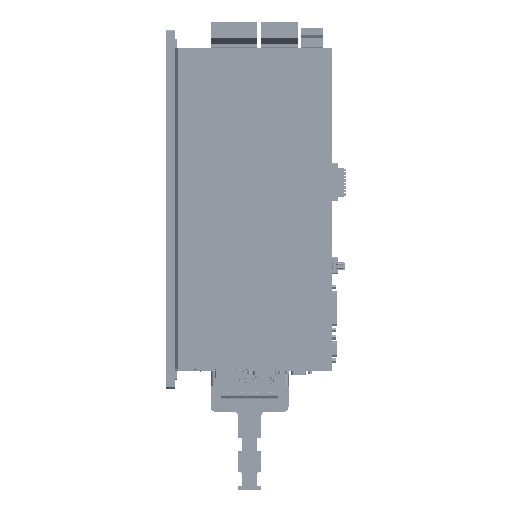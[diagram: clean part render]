
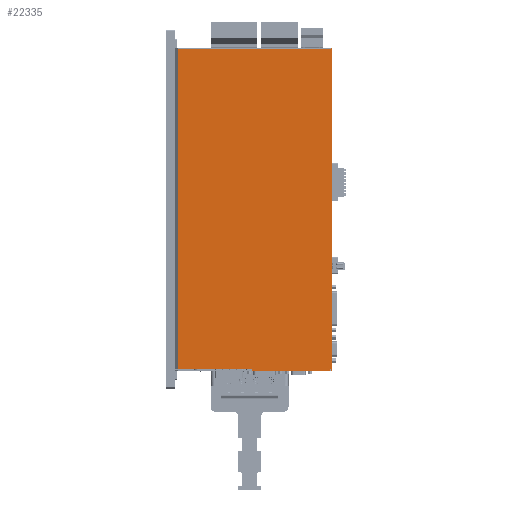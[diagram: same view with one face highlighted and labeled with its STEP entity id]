
A CAD part, left-side view. The second image highlights one B-rep face of the part: STEP entity #22335.
In plain terms, the highlighted planar face has unit normal (-1, 0, 0).
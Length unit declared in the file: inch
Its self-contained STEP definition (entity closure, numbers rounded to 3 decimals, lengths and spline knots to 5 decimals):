
#22335=ADVANCED_FACE('',(#56442),#56443,.F.);
#56442=FACE_OUTER_BOUND('',#107662,.T.);
#56443=PLANE('',#107663);
#107662=EDGE_LOOP('',(#187892,#187893,#187894,#187895,#187896,#187897,#187898,#187899,#187900,#187901,#187902,#187903));
#107663=AXIS2_PLACEMENT_3D('',#187904,#187905,#187906);
#187892=ORIENTED_EDGE('',*,*,#314651,.T.);
#187893=ORIENTED_EDGE('',*,*,#314486,.T.);
#187894=ORIENTED_EDGE('',*,*,#314652,.T.);
#187895=ORIENTED_EDGE('',*,*,#309496,.F.);
#187896=ORIENTED_EDGE('',*,*,#314653,.T.);
#187897=ORIENTED_EDGE('',*,*,#314654,.T.);
#187898=ORIENTED_EDGE('',*,*,#314655,.T.);
#187899=ORIENTED_EDGE('',*,*,#314656,.T.);
#187900=ORIENTED_EDGE('',*,*,#314657,.F.);
#187901=ORIENTED_EDGE('',*,*,#314658,.T.);
#187902=ORIENTED_EDGE('',*,*,#314659,.F.);
#187903=ORIENTED_EDGE('',*,*,#314660,.T.);
#187904=CARTESIAN_POINT('',(-2.34252,-6.95866,-0.77756));
#187905=DIRECTION('',(1.0,0.0,0.0));
#187906=DIRECTION('',(0.0,0.0,-1.0));
#309496=EDGE_CURVE('',#376042,#376044,#376045,.F.);
#314486=EDGE_CURVE('',#384494,#384492,#384495,.T.);
#314651=EDGE_CURVE('',#384771,#384494,#384772,.F.);
#314652=EDGE_CURVE('',#384492,#376044,#384773,.F.);
#314653=EDGE_CURVE('',#376042,#384774,#384775,.T.);
#314654=EDGE_CURVE('',#384774,#384776,#384777,.F.);
#314655=EDGE_CURVE('',#384776,#384778,#384779,.F.);
#314656=EDGE_CURVE('',#384778,#384780,#384781,.T.);
#314657=EDGE_CURVE('',#384782,#384780,#384783,.T.);
#314658=EDGE_CURVE('',#384782,#384784,#384785,.F.);
#314659=EDGE_CURVE('',#384786,#384784,#384787,.F.);
#314660=EDGE_CURVE('',#384786,#384771,#384788,.T.);
#376042=VERTEX_POINT('',#479023);
#376044=VERTEX_POINT('',#479026);
#376045=LINE('',#479027,#479028);
#384492=VERTEX_POINT('',#492821);
#384494=VERTEX_POINT('',#492824);
#384495=LINE('',#492825,#492826);
#384771=VERTEX_POINT('',#493262);
#384772=LINE('',#493263,#493264);
#384773=LINE('',#493265,#493266);
#384774=VERTEX_POINT('',#493267);
#384775=LINE('',#493268,#493269);
#384776=VERTEX_POINT('',#493270);
#384777=LINE('',#493271,#493272);
#384778=VERTEX_POINT('',#493273);
#384779=LINE('',#493274,#493275);
#384780=VERTEX_POINT('',#493276);
#384781=LINE('',#493277,#493278);
#384782=VERTEX_POINT('',#493279);
#384783=LINE('',#493280,#493281);
#384784=VERTEX_POINT('',#493282);
#384785=LINE('',#493283,#493284);
#384786=VERTEX_POINT('',#493285);
#384787=LINE('',#493286,#493287);
#384788=LINE('',#493288,#493289);
#479023=CARTESIAN_POINT('',(-2.34252,-5.64961,-0.84646));
#479026=CARTESIAN_POINT('',(-2.34252,-5.64961,-0.76772));
#479027=CARTESIAN_POINT('',(-2.34252,-5.64961,-0.77756));
#479028=VECTOR('',#612814,0.03937);
#492821=CARTESIAN_POINT('',(-2.34252,-2.48031,-0.76772));
#492824=CARTESIAN_POINT('',(-2.34252,-2.48031,12.8937));
#492825=CARTESIAN_POINT('',(-2.34252,-2.48031,6.06299));
#492826=VECTOR('',#618373,0.03937);
#493262=CARTESIAN_POINT('',(-2.34252,-9.01575,12.8937));
#493263=CARTESIAN_POINT('',(-2.34252,-4.75394,12.8937));
#493264=VECTOR('',#618539,0.03937);
#493265=CARTESIAN_POINT('',(-2.34252,-4.75394,-0.76772));
#493266=VECTOR('',#618540,0.03937);
#493267=CARTESIAN_POINT('',(-2.34252,-8.99606,-0.84646));
#493268=CARTESIAN_POINT('',(-2.34252,-6.95866,-0.84646));
#493269=VECTOR('',#618541,0.03937);
#493270=CARTESIAN_POINT('',(-2.34252,-8.99606,-0.76772));
#493271=CARTESIAN_POINT('',(-2.34252,-8.99606,-0.77756));
#493272=VECTOR('',#618542,0.03937);
#493273=CARTESIAN_POINT('',(-2.34252,-9.01575,-0.76772));
#493274=CARTESIAN_POINT('',(-2.34252,-4.75394,-0.76772));
#493275=VECTOR('',#618543,0.03937);
#493276=CARTESIAN_POINT('',(-2.34252,-9.01575,-0.84646));
#493277=CARTESIAN_POINT('',(-2.34252,-9.01575,-0.70374));
#493278=VECTOR('',#618544,0.03937);
#493279=CARTESIAN_POINT('',(-2.34252,-9.05512,-0.84646));
#493280=CARTESIAN_POINT('',(-2.34252,-5.47736,-0.84646));
#493281=VECTOR('',#618545,0.03937);
#493282=CARTESIAN_POINT('',(-2.34252,-9.05512,12.97244));
#493283=CARTESIAN_POINT('',(-2.34252,-9.05512,-1.54429));
#493284=VECTOR('',#618546,0.03937);
#493285=CARTESIAN_POINT('',(-2.34252,-9.01575,12.97244));
#493286=CARTESIAN_POINT('',(-2.34252,-5.84154,12.97244));
#493287=VECTOR('',#618547,0.03937);
#493288=CARTESIAN_POINT('',(-2.34252,-9.01575,-0.70374));
#493289=VECTOR('',#618548,0.03937);
#612814=DIRECTION('',(0.0,0.0,-1.0));
#618373=DIRECTION('',(0.0,0.0,-1.0));
#618539=DIRECTION('',(0.0,-1.0,0.0));
#618540=DIRECTION('',(0.0,1.0,0.0));
#618541=DIRECTION('',(0.0,-1.0,0.0));
#618542=DIRECTION('',(0.0,0.0,-1.0));
#618543=DIRECTION('',(0.0,1.0,0.0));
#618544=DIRECTION('',(0.0,0.,-1.0));
#618545=DIRECTION('',(0.0,1.0,0.0));
#618546=DIRECTION('',(0.0,0.,-1.0));
#618547=DIRECTION('',(0.0,1.0,0.0));
#618548=DIRECTION('',(0.0,0.,-1.0));
